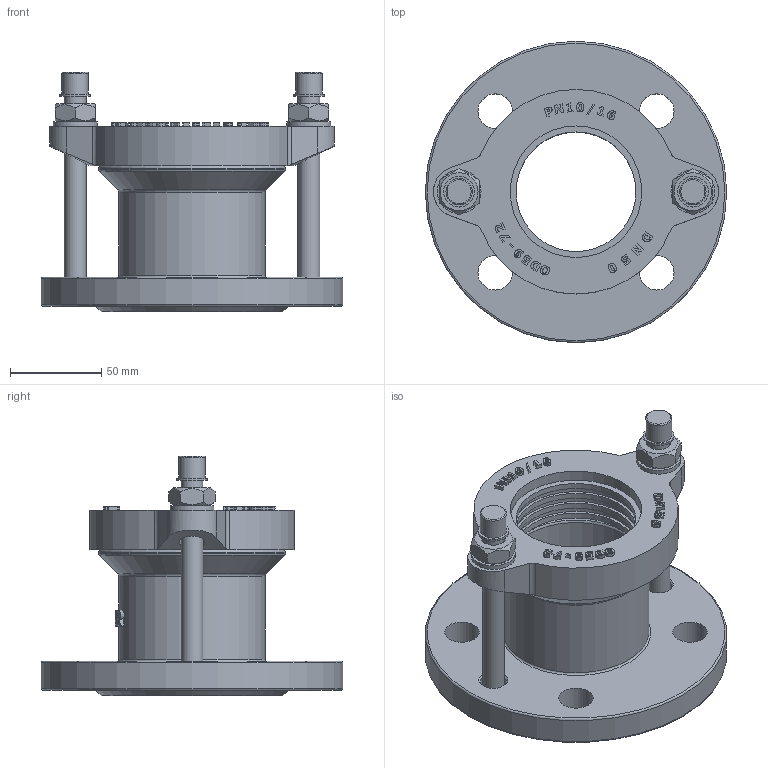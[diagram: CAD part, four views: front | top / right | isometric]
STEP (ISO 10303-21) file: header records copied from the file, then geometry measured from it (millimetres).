
FILE_DESCRIPTION(('STEP AP203'), '1');
FILE_NAME('Ôëàíöåâûé àäàïòåð', '', ('UNSPECIFIED'), ('UNSPECIFIED'), 'C3D Converter', 'C3D Toolkit', '');
FILE_SCHEMA(('CONFIG_CONTROL_DESIGN'));
Length unit declared in the file: millimetre
Assembly tree (11 placements, depth 2):
  (unnamed)
    (unnamed)
    (unnamed)  x2
    (unnamed)  x2
    (unnamed)  x2
    (unnamed)  x2
    (unnamed)
    (unnamed)
Bounding box: 165 x 165 x 131.2 mm (x, y, z)
Volume: 536623.7 mm3; surface area: 157108.9 mm2
Topology: 11 solids, 11 shells, 669 faces, 1722 edges, 1108 vertices
Faces by surface type: extrusion 282, plane 237, cylinder 93, torus 23, cone 18, bspline 8, sphere 8
Full cylindrical faces by diameter (mm): 10.415 x1, 12 x6, 13 x2, 14 x4, 14.4 x2, 16.8 x2, 19 x4, 24 x2, 65.5 x5, 68.75 x3, 72 x2, 76 x1, 80 x2, 102 x1, 104 x2, 165 x1
Entity records: 27370 total; most frequent: CARTESIAN_POINT 9265, ORIENTED_EDGE 3128, DIRECTION 2134, EDGE_CURVE 1564, VERTEX_POINT 1056, VECTOR 1002, B_SPLINE_CURVE_WITH_KNOTS 880, EDGE_LOOP 764
